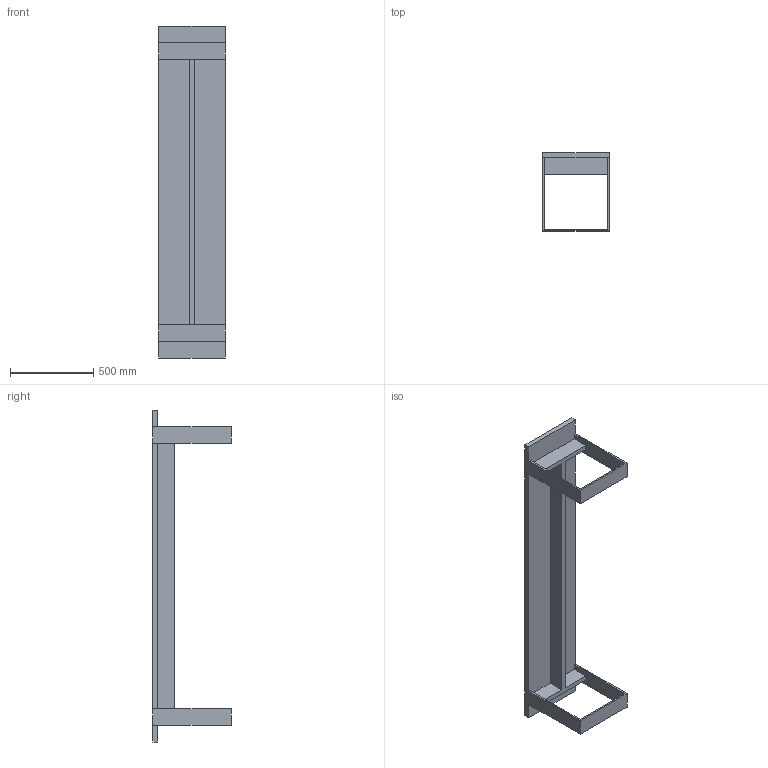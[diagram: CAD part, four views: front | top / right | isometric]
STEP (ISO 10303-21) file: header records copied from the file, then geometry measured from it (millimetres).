
FILE_DESCRIPTION (( 'STEP AP203' ), '1' );
FILE_NAME ('Haag bench 2000x400.STEP', '2019-04-02T14:07:26', ( '' ), ( '' ), 'SwSTEP 2.0', 'SolidWorks 2019', '' );
FILE_SCHEMA (( 'CONFIG_CONTROL_DESIGN' ));
Length unit declared in the file: millimetre
Products named in the file (1): Haag bench 2000x400
Bounding box: 400 x 470 x 2000 mm (x, y, z)
Volume: 33810000 mm3; surface area: 3135400 mm2
Topology: 4 solids, 4 shells, 56 faces, 144 edges, 96 vertices
Faces by surface type: plane 56
Entity records: 1747 total; most frequent: CARTESIAN_POINT 297, ORIENTED_EDGE 288, DIRECTION 258, EDGE_CURVE 144, LINE 144, VECTOR 144, VERTEX_POINT 96, EDGE_LOOP 60
